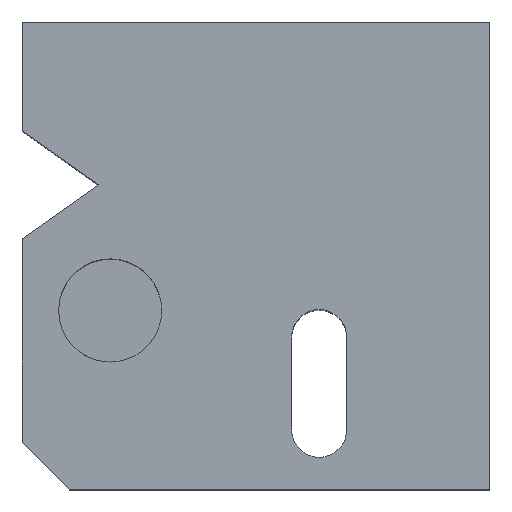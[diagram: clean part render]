
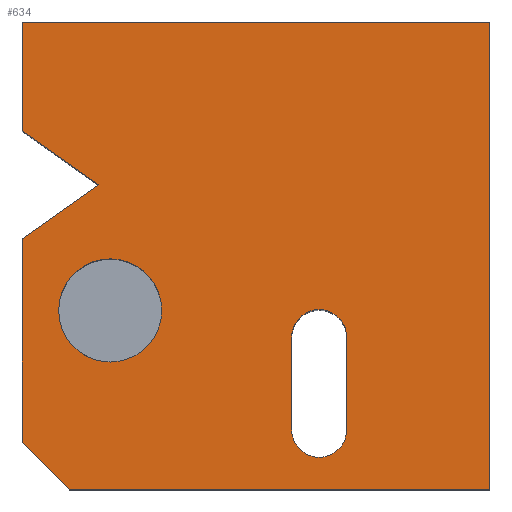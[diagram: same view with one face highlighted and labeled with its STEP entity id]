
A CAD part, top view. The second image highlights one B-rep face of the part: STEP entity #634.
In plain terms, the highlighted planar face has unit normal (0, 0, 1).
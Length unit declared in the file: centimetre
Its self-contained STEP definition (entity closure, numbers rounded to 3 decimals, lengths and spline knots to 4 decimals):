
#18 = CARTESIAN_POINT ( 'NONE',  ( 0., 1000., 1000. ) ) ;
#32 = VECTOR ( 'NONE', #689, 100. ) ;
#35 = DIRECTION ( 'NONE',  ( 0., -1., 0. ) ) ;
#58 = ORIENTED_EDGE ( 'NONE', *, *, #831, .T. ) ;
#71 = DIRECTION ( 'NONE',  ( 0., 0., 1. ) ) ;
#72 = FACE_BOUND ( 'NONE', #774, .T. ) ;
#77 = CARTESIAN_POINT ( 'NONE',  ( 0., 100.7021, 1000. ) ) ;
#85 = ORIENTED_EDGE ( 'NONE', *, *, #1149, .T. ) ;
#104 = VERTEX_POINT ( 'NONE', #77 ) ;
#115 = AXIS2_PLACEMENT_3D ( 'NONE', #1011, #71, #1479 ) ;
#132 = EDGE_CURVE ( 'NONE', #564, #739, #1387, .T. ) ;
#133 = LINE ( 'NONE', #247, #1418 ) ;
#145 = VERTEX_POINT ( 'NONE', #1469 ) ;
#157 = DIRECTION ( 'NONE',  ( 0.817, -0.577, 0. ) ) ;
#159 = VECTOR ( 'NONE', #720, 100. ) ;
#167 = EDGE_CURVE ( 'NONE', #739, #564, #785, .T. ) ;
#176 = EDGE_CURVE ( 'NONE', #679, #1333, #1298, .T. ) ;
#180 = DIRECTION ( 'NONE',  ( 1., 0., 0. ) ) ;
#247 = CARTESIAN_POINT ( 'NONE',  ( 1000., 1000., 1000. ) ) ;
#278 = ORIENTED_EDGE ( 'NONE', *, *, #678, .T. ) ;
#291 = ORIENTED_EDGE ( 'NONE', *, *, #1384, .T. ) ;
#301 = ORIENTED_EDGE ( 'NONE', *, *, #167, .F. ) ;
#305 = DIRECTION ( 'NONE',  ( 1., 0., 0. ) ) ;
#324 = LINE ( 'NONE', #336, #32 ) ;
#327 = CARTESIAN_POINT ( 'NONE',  ( 0., 1000., 1000. ) ) ;
#335 = CARTESIAN_POINT ( 'NONE',  ( 0., 1000., 1000. ) ) ;
#336 = CARTESIAN_POINT ( 'NONE',  ( 576.3486, 127.024, 1000. ) ) ;
#356 = LINE ( 'NONE', #18, #433 ) ;
#374 = LINE ( 'NONE', #479, #844 ) ;
#415 = CARTESIAN_POINT ( 'NONE',  ( 163.4437, 651.4578, 1000. ) ) ;
#425 = PLANE ( 'NONE',  #942 ) ;
#433 = VECTOR ( 'NONE', #1414, 100. ) ;
#442 = CARTESIAN_POINT ( 'NONE',  ( 0., 0., 1000. ) ) ;
#466 = ORIENTED_EDGE ( 'NONE', *, *, #1107, .T. ) ;
#479 = CARTESIAN_POINT ( 'NONE',  ( 694.1003, 325.6119, 1000. ) ) ;
#494 = CARTESIAN_POINT ( 'NONE',  ( 635.2245, 325.6119, 1000. ) ) ;
#518 = CARTESIAN_POINT ( 'NONE',  ( 50.351, 50.351, 1000. ) ) ;
#523 = CARTESIAN_POINT ( 'NONE',  ( 1000., 0., 1000. ) ) ;
#533 = VECTOR ( 'NONE', #1328, 100. ) ;
#540 = CARTESIAN_POINT ( 'NONE',  ( 187.9148, 382.5369, 1000. ) ) ;
#545 = VERTEX_POINT ( 'NONE', #1019 ) ;
#564 = VERTEX_POINT ( 'NONE', #1215 ) ;
#577 = CARTESIAN_POINT ( 'NONE',  ( 1000., 1000., 1000. ) ) ;
#588 = CARTESIAN_POINT ( 'NONE',  ( 694.1003, 127.024, 1000. ) ) ;
#634 = ADVANCED_FACE ( 'NONE', ( #666, #1123, #72 ), #425, .T. ) ;
#640 = ORIENTED_EDGE ( 'NONE', *, *, #1258, .T. ) ;
#651 = EDGE_CURVE ( 'NONE', #702, #657, #1150, .T. ) ;
#657 = VERTEX_POINT ( 'NONE', #1051 ) ;
#666 = FACE_BOUND ( 'NONE', #1086, .T. ) ;
#678 = EDGE_CURVE ( 'NONE', #1369, #1023, #1301, .T. ) ;
#679 = VERTEX_POINT ( 'NONE', #588 ) ;
#689 = DIRECTION ( 'NONE',  ( 0., 1., 0. ) ) ;
#702 = VERTEX_POINT ( 'NONE', #327 ) ;
#718 = DIRECTION ( 'NONE',  ( 0., 0., -1. ) ) ;
#720 = DIRECTION ( 'NONE',  ( 1., 0., 0. ) ) ;
#725 = VERTEX_POINT ( 'NONE', #953 ) ;
#738 = VERTEX_POINT ( 'NONE', #577 ) ;
#739 = VERTEX_POINT ( 'NONE', #1516 ) ;
#747 = CARTESIAN_POINT ( 'NONE',  ( 576.3486, 127.024, 1000. ) ) ;
#750 = VECTOR ( 'NONE', #1279, 100. ) ;
#752 = EDGE_LOOP ( 'NONE', ( #291, #85, #640, #278, #466, #1506, #1225, #1076 ) ) ;
#759 = CIRCLE ( 'NONE', #945, 58.8758 ) ;
#774 = EDGE_LOOP ( 'NONE', ( #1249, #301 ) ) ;
#785 = CIRCLE ( 'NONE', #115, 110.4132 ) ;
#804 = DIRECTION ( 'NONE',  ( 0., 0., 1. ) ) ;
#826 = CARTESIAN_POINT ( 'NONE',  ( 694.1003, 325.6119, 1000. ) ) ;
#828 = VECTOR ( 'NONE', #1179, 100. ) ;
#831 = EDGE_CURVE ( 'NONE', #725, #903, #759, .T. ) ;
#844 = VECTOR ( 'NONE', #35, 100. ) ;
#900 = CARTESIAN_POINT ( 'NONE',  ( 0., 0., 1000. ) ) ;
#903 = VERTEX_POINT ( 'NONE', #826 ) ;
#916 = CARTESIAN_POINT ( 'NONE',  ( 100.7021, 0., 1000. ) ) ;
#939 = CARTESIAN_POINT ( 'NONE',  ( 635.2245, 127.024, 1000. ) ) ;
#942 = AXIS2_PLACEMENT_3D ( 'NONE', #900, #1366, #305 ) ;
#945 = AXIS2_PLACEMENT_3D ( 'NONE', #494, #970, #1436 ) ;
#953 = CARTESIAN_POINT ( 'NONE',  ( 576.3486, 325.6119, 1000. ) ) ;
#959 = DIRECTION ( 'NONE',  ( -1., 0., 0. ) ) ;
#970 = DIRECTION ( 'NONE',  ( 0., 0., -1. ) ) ;
#974 = ORIENTED_EDGE ( 'NONE', *, *, #1154, .T. ) ;
#1005 = LINE ( 'NONE', #415, #1425 ) ;
#1011 = CARTESIAN_POINT ( 'NONE',  ( 187.9148, 382.5369, 1000. ) ) ;
#1016 = LINE ( 'NONE', #1159, #750 ) ;
#1019 = CARTESIAN_POINT ( 'NONE',  ( 163.4437, 651.4578, 1000. ) ) ;
#1023 = VERTEX_POINT ( 'NONE', #523 ) ;
#1051 = CARTESIAN_POINT ( 'NONE',  ( 0., 766.9475, 1000. ) ) ;
#1065 = DIRECTION ( 'NONE',  ( 0., 1., 0. ) ) ;
#1076 = ORIENTED_EDGE ( 'NONE', *, *, #1339, .T. ) ;
#1086 = EDGE_LOOP ( 'NONE', ( #1284, #1362, #58, #974 ) ) ;
#1107 = EDGE_CURVE ( 'NONE', #1023, #738, #133, .T. ) ;
#1110 = CARTESIAN_POINT ( 'NONE',  ( 0., 1000., 1000. ) ) ;
#1119 = AXIS2_PLACEMENT_3D ( 'NONE', #540, #804, #180 ) ;
#1123 = FACE_OUTER_BOUND ( 'NONE', #752, .T. ) ;
#1149 = EDGE_CURVE ( 'NONE', #145, #104, #356, .T. ) ;
#1150 = LINE ( 'NONE', #335, #828 ) ;
#1154 = EDGE_CURVE ( 'NONE', #903, #679, #374, .T. ) ;
#1159 = CARTESIAN_POINT ( 'NONE',  ( 0., 535.9682, 1000. ) ) ;
#1166 = AXIS2_PLACEMENT_3D ( 'NONE', #939, #718, #959 ) ;
#1179 = DIRECTION ( 'NONE',  ( 0., -1., 0. ) ) ;
#1215 = CARTESIAN_POINT ( 'NONE',  ( 298.328, 382.5369, 1000. ) ) ;
#1225 = ORIENTED_EDGE ( 'NONE', *, *, #651, .T. ) ;
#1233 = LINE ( 'NONE', #1110, #1305 ) ;
#1240 = DIRECTION ( 'NONE',  ( -1., 0., 0. ) ) ;
#1249 = ORIENTED_EDGE ( 'NONE', *, *, #132, .F. ) ;
#1258 = EDGE_CURVE ( 'NONE', #104, #1369, #1337, .T. ) ;
#1279 = DIRECTION ( 'NONE',  ( -0.817, -0.577, 0. ) ) ;
#1284 = ORIENTED_EDGE ( 'NONE', *, *, #176, .T. ) ;
#1298 = CIRCLE ( 'NONE', #1166, 58.8758 ) ;
#1301 = LINE ( 'NONE', #442, #159 ) ;
#1305 = VECTOR ( 'NONE', #1240, 100. ) ;
#1308 = EDGE_CURVE ( 'NONE', #738, #702, #1233, .T. ) ;
#1328 = DIRECTION ( 'NONE',  ( 0.707, -0.707, 0. ) ) ;
#1333 = VERTEX_POINT ( 'NONE', #747 ) ;
#1337 = LINE ( 'NONE', #518, #533 ) ;
#1339 = EDGE_CURVE ( 'NONE', #657, #545, #1005, .T. ) ;
#1362 = ORIENTED_EDGE ( 'NONE', *, *, #1393, .T. ) ;
#1366 = DIRECTION ( 'NONE',  ( 0., 0., 1. ) ) ;
#1369 = VERTEX_POINT ( 'NONE', #916 ) ;
#1384 = EDGE_CURVE ( 'NONE', #545, #145, #1016, .T. ) ;
#1387 = CIRCLE ( 'NONE', #1119, 110.4132 ) ;
#1393 = EDGE_CURVE ( 'NONE', #1333, #725, #324, .T. ) ;
#1414 = DIRECTION ( 'NONE',  ( 0., -1., 0. ) ) ;
#1418 = VECTOR ( 'NONE', #1065, 100. ) ;
#1425 = VECTOR ( 'NONE', #157, 100. ) ;
#1436 = DIRECTION ( 'NONE',  ( -1., 0., 0. ) ) ;
#1469 = CARTESIAN_POINT ( 'NONE',  ( 0., 535.9682, 1000. ) ) ;
#1479 = DIRECTION ( 'NONE',  ( 1., 0., 0. ) ) ;
#1506 = ORIENTED_EDGE ( 'NONE', *, *, #1308, .T. ) ;
#1516 = CARTESIAN_POINT ( 'NONE',  ( 77.5017, 382.5369, 1000. ) ) ;
